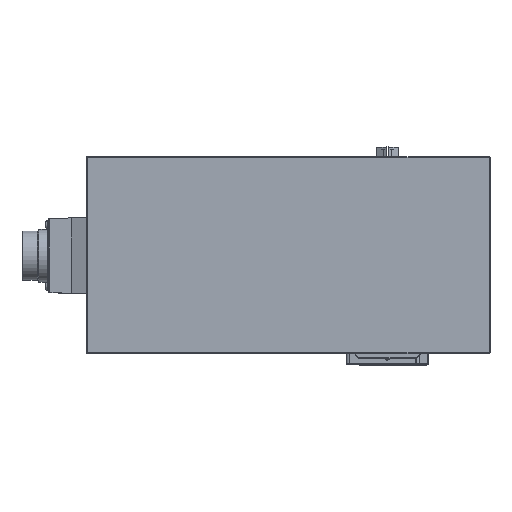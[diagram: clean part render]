
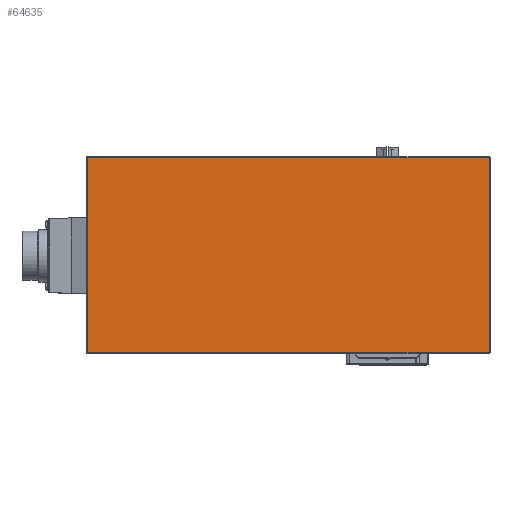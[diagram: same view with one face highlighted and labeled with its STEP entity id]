
A CAD part, top view. The second image highlights one B-rep face of the part: STEP entity #64635.
In plain terms, the highlighted planar face has unit normal (0, 0, 1).
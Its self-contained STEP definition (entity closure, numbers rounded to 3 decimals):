
#64596=CARTESIAN_POINT('',(-60.,62.5,568.5));
#64597=DIRECTION('',(0.,1.,0.));
#64598=DIRECTION('',(0.,0.,1.));
#64599=AXIS2_PLACEMENT_3D('',#64596,#64598,#64597);
#64600=PLANE('',#64599);
#64601=CARTESIAN_POINT('',(-181.5,-59.,568.5));
#64602=VERTEX_POINT('',#64601);
#64603=CARTESIAN_POINT('',(61.5,-59.,568.5));
#64604=VERTEX_POINT('',#64603);
#64605=CARTESIAN_POINT('',(-181.5,-59.,568.5));
#64606=DIRECTION('',(1.,0.,0.));
#64607=VECTOR('',#64606,243.);
#64608=LINE('',#64605,#64607);
#64609=EDGE_CURVE('',#64602,#64604,#64608,.T.);
#64610=ORIENTED_EDGE('E7766',*,*,#64609,.T.);
#64611=CARTESIAN_POINT('',(61.5,59.,568.5));
#64612=VERTEX_POINT('',#64611);
#64613=CARTESIAN_POINT('',(61.5,-59.,568.5));
#64614=DIRECTION('',(0.,1.,0.));
#64615=VECTOR('',#64614,118.);
#64616=LINE('',#64613,#64615);
#64617=EDGE_CURVE('',#64604,#64612,#64616,.T.);
#64618=ORIENTED_EDGE('E7767',*,*,#64617,.T.);
#64619=CARTESIAN_POINT('',(-181.5,59.,568.5));
#64620=VERTEX_POINT('',#64619);
#64621=CARTESIAN_POINT('',(61.5,59.,568.5));
#64622=DIRECTION('',(-1.,0.,0.));
#64623=VECTOR('',#64622,243.);
#64624=LINE('',#64621,#64623);
#64625=EDGE_CURVE('',#64612,#64620,#64624,.T.);
#64626=ORIENTED_EDGE('E7768',*,*,#64625,.T.);
#64627=CARTESIAN_POINT('',(-181.5,59.,568.5));
#64628=DIRECTION('',(0.,-1.,0.));
#64629=VECTOR('',#64628,118.);
#64630=LINE('',#64627,#64629);
#64631=EDGE_CURVE('',#64620,#64602,#64630,.T.);
#64632=ORIENTED_EDGE('E7769',*,*,#64631,.T.);
#64633=EDGE_LOOP('',(#64610,#64618,#64626,#64632));
#64634=FACE_OUTER_BOUND('',#64633,.T.);
#64635=ADVANCED_FACE('F3015',(#64634),#64600,.T.);
